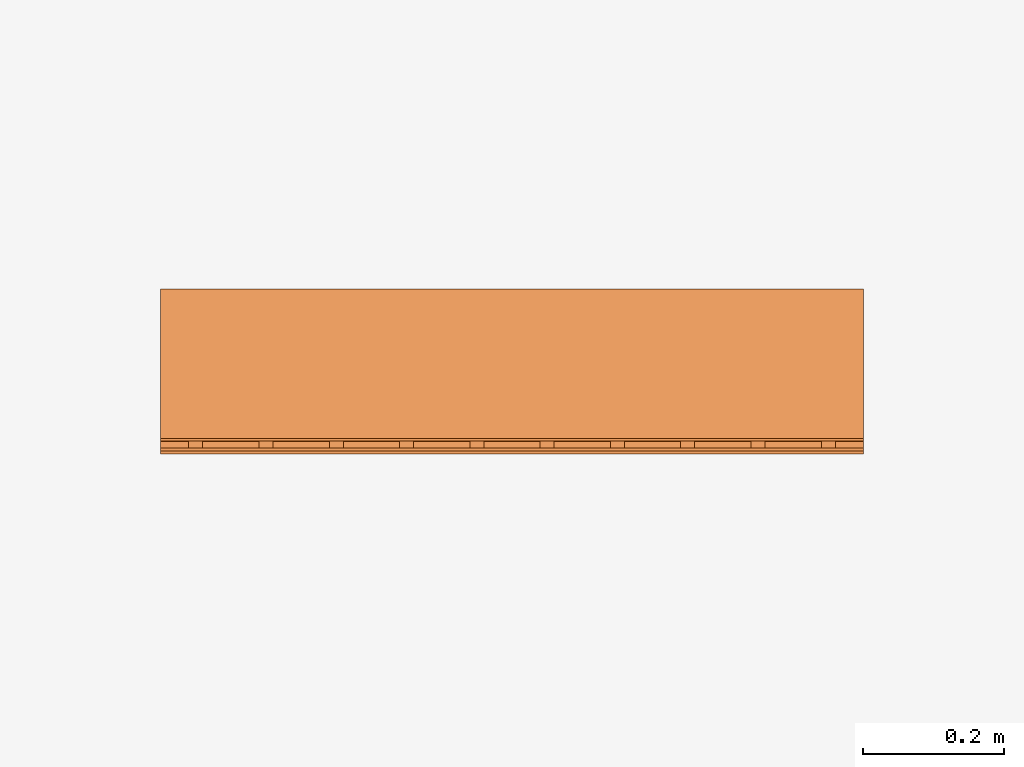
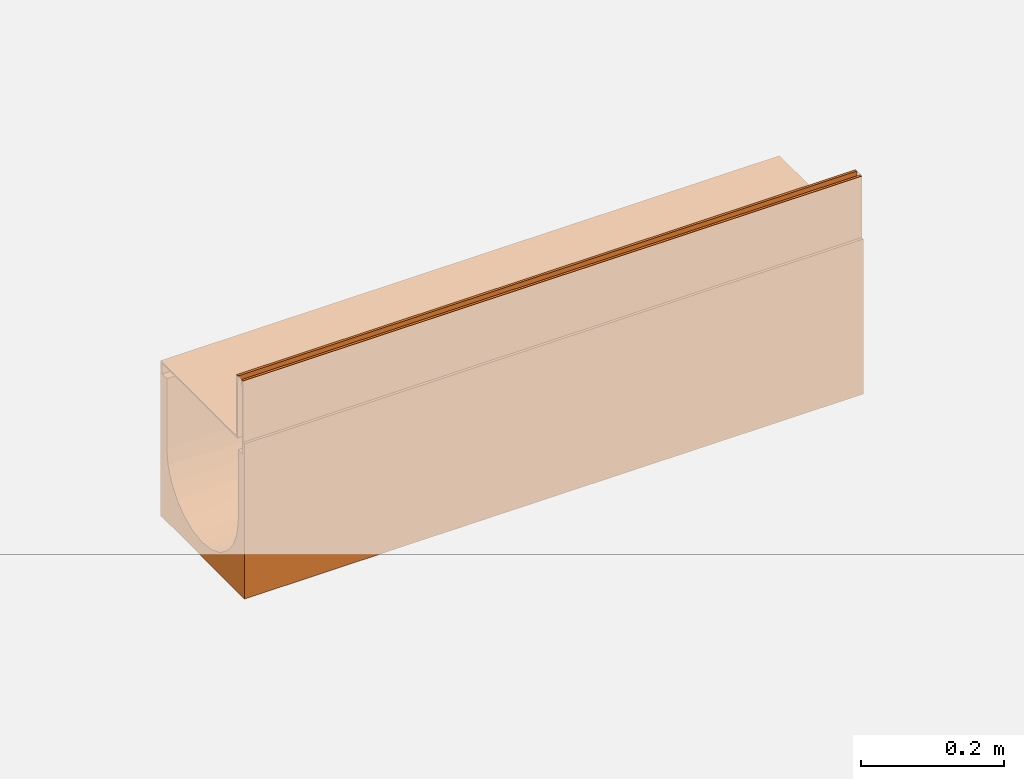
# One storey, part 2 of 2: 1 proxy.
"""IFC2X3 building model written with IfcOpenShell, lengths in millimetres."""

from ifc_helpers import new_model, entity, si_unit, converted_unit, direction, frame, origin, place, context, subcontext, project, spatial, faceted_brep, source, transform, mapped, material, material_list, element, save


model = new_model("IFC2X3")

# Units and contexts
model_context = context("Model", 3, precision=1e-06, world=origin(), true_north=direction((2.0, 6.12303176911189e-17, 1.0)))
context_of_model = context(None, 3, precision=1e-06, world=origin(), true_north=direction((2.0, 6.12303176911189e-17, 1.0)))
body_context = subcontext(model_context, "Body", "Model", "MODEL_VIEW")
ifc_project = project(units=[si_unit("LENGTHUNIT", "METRE", prefix="MILLI"), si_unit("AREAUNIT", "SQUARE_METRE", prefix="MILLI"), si_unit("VOLUMEUNIT", "CUBIC_METRE", prefix="MILLI"), converted_unit("PLANEANGLEUNIT", "DEGREE", entity("IfcRatioMeasure", 0.0174532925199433), si_unit("PLANEANGLEUNIT", "RADIAN"), dimensions=[0, 0, 0, 0, 0, 0, 0]), si_unit("TIMEUNIT", "SECOND")], contexts=[model_context, context_of_model])

# Site, building, storey
site_placement = place(None, origin())
site = spatial("IfcSite", under=ifc_project, at=site_placement, Name="Default", CompositionType="ELEMENT")
building_placement = place(site_placement, origin())
building = spatial("IfcBuilding", under=site, at=building_placement, CompositionType="ELEMENT")
storey_placement = place(building_placement, origin())
storey = spatial("IfcBuildingStorey", under=building, at=storey_placement, Name="Level 1", CompositionType="ELEMENT", Elevation=0.0)

# Proxy
ifc_material_1 = material(Name="Stainless Steel (F)")
ifc_material_2 = material(Name="Vienite® Synthetic Resin Concrete")
ifc_material_list = material_list([ifc_material_1, ifc_material_2])
shared_shape = source(origin(), body_context, "Body", "Brep", [
    faceted_brep([(113.25, 40.0, -107.0), (113.25, 42.0, -109.0), (113.25, 58.0, -109.0), (113.25, 60.0, -107.0), (113.25, 42.0, -123.499999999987), (113.25, 40.0, -125.499999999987), (113.25, 58.0, -123.499999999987), (113.25, 60.0, -125.499999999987), (-111.249999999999, 40.0, -125.499999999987), (-111.249999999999, 42.0, -123.499999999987), (-111.249999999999, 58.0, -123.499999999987), (-111.249999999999, 60.0, -125.499999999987), (-111.249999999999, 42.0, -109.0), (-111.249999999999, 40.0, -107.0), (-111.249999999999, 58.0, -109.0), (-111.249999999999, 60.0, -107.0)], [[[0, 1, 2, 3]], [[4, 1, 0, 5]], [[3, 2, 6, 7]], [[6, 4, 5, 7]], [[8, 9, 10, 11]], [[12, 9, 8, 13]], [[11, 10, 14, 15]], [[14, 12, 13, 15]], [[8, 5, 0, 13]], [[7, 5, 8, 11]], [[15, 3, 7, 11]], [[0, 3, 15, 13]], [[12, 1, 4, 9]], [[2, 1, 12, 14]], [[10, 6, 2, 14]], [[4, 6, 10, 9]]]),
    faceted_brep([(113.250000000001, 140.0, -107.0), (113.250000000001, 142.0, -109.0), (113.250000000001, 158.0, -109.0), (113.250000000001, 160.0, -107.0), (113.250000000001, 142.0, -123.499999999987), (113.250000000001, 140.0, -125.499999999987), (113.250000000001, 158.0, -123.499999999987), (113.250000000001, 160.0, -125.499999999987), (-111.249999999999, 140.0, -125.499999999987), (-111.249999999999, 142.0, -123.499999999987), (-111.249999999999, 158.0, -123.499999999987), (-111.249999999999, 160.0, -125.499999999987), (-111.249999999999, 142.0, -109.0), (-111.249999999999, 140.0, -107.0), (-111.249999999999, 158.0, -109.0), (-111.249999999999, 160.0, -107.0)], [[[0, 1, 2, 3]], [[4, 1, 0, 5]], [[3, 2, 6, 7]], [[6, 4, 5, 7]], [[8, 9, 10, 11]], [[12, 9, 8, 13]], [[11, 10, 14, 15]], [[14, 12, 13, 15]], [[8, 5, 0, 13]], [[7, 5, 8, 11]], [[15, 3, 7, 11]], [[0, 3, 15, 13]], [[1, 4, 9, 12]], [[2, 1, 12, 14]], [[10, 6, 2, 14]], [[4, 6, 10, 9]]]),
    faceted_brep([(113.250000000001, 240.0, -107.0), (113.250000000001, 242.0, -109.0), (113.250000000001, 258.0, -109.0), (113.250000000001, 260.0, -107.0), (113.250000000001, 242.0, -123.499999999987), (113.250000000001, 240.0, -125.499999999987), (113.250000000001, 258.0, -123.499999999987), (113.250000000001, 260.0, -125.499999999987), (-111.249999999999, 240.0, -125.499999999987), (-111.249999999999, 242.0, -123.499999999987), (-111.249999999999, 258.0, -123.499999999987), (-111.249999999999, 260.0, -125.499999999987), (-111.249999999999, 242.0, -109.0), (-111.249999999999, 240.0, -107.0), (-111.249999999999, 258.0, -109.0), (-111.249999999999, 260.0, -107.0)], [[[0, 1, 2, 3]], [[4, 1, 0, 5]], [[3, 2, 6, 7]], [[6, 4, 5, 7]], [[8, 9, 10, 11]], [[12, 9, 8, 13]], [[11, 10, 14, 15]], [[14, 12, 13, 15]], [[8, 5, 0, 13]], [[7, 5, 8, 11]], [[15, 3, 7, 11]], [[0, 3, 15, 13]], [[1, 4, 9, 12]], [[2, 1, 12, 14]], [[10, 6, 2, 14]], [[4, 6, 10, 9]]]),
    faceted_brep([(113.250000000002, 340.0, -107.0), (113.250000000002, 342.0, -109.0), (113.250000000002, 358.0, -109.0), (113.250000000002, 360.0, -107.0), (113.250000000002, 342.0, -123.499999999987), (113.250000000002, 340.0, -125.499999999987), (113.250000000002, 358.0, -123.499999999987), (113.250000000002, 360.0, -125.499999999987), (-111.249999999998, 340.0, -125.499999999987), (-111.249999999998, 342.0, -123.499999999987), (-111.249999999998, 358.0, -123.499999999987), (-111.249999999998, 360.0, -125.499999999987), (-111.249999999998, 342.0, -109.0), (-111.249999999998, 340.0, -107.0), (-111.249999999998, 358.0, -109.0), (-111.249999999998, 360.0, -107.0)], [[[0, 1, 2, 3]], [[4, 1, 0, 5]], [[3, 2, 6, 7]], [[6, 4, 5, 7]], [[8, 9, 10, 11]], [[12, 9, 8, 13]], [[11, 10, 14, 15]], [[14, 12, 13, 15]], [[8, 5, 0, 13]], [[7, 5, 8, 11]], [[15, 3, 7, 11]], [[0, 3, 15, 13]], [[1, 4, 9, 12]], [[2, 1, 12, 14]], [[10, 6, 2, 14]], [[4, 6, 10, 9]]]),
    faceted_brep([(113.250000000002, 440.0, -107.0), (113.250000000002, 442.0, -109.0), (113.250000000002, 458.0, -109.0), (113.250000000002, 460.0, -107.0), (113.250000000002, 442.0, -123.499999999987), (113.250000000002, 440.0, -125.499999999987), (113.250000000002, 458.0, -123.499999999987), (113.250000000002, 460.0, -125.499999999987), (-111.249999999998, 440.0, -125.499999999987), (-111.249999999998, 442.0, -123.499999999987), (-111.249999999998, 458.0, -123.499999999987), (-111.249999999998, 460.0, -125.499999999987), (-111.249999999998, 442.0, -109.0), (-111.249999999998, 440.0, -107.0), (-111.249999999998, 458.0, -109.0), (-111.249999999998, 460.0, -107.0)], [[[0, 1, 2, 3]], [[4, 1, 0, 5]], [[3, 2, 6, 7]], [[6, 4, 5, 7]], [[8, 9, 10, 11]], [[12, 9, 8, 13]], [[11, 10, 14, 15]], [[14, 12, 13, 15]], [[8, 5, 0, 13]], [[7, 5, 8, 11]], [[15, 3, 7, 11]], [[0, 3, 15, 13]], [[1, 4, 9, 12]], [[2, 1, 12, 14]], [[10, 6, 2, 14]], [[4, 6, 10, 9]]]),
    faceted_brep([(113.250000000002, 540.0, -107.0), (113.250000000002, 542.0, -109.0), (113.250000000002, 558.0, -109.0), (113.250000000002, 560.0, -107.0), (113.250000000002, 542.0, -123.499999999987), (113.250000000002, 540.0, -125.499999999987), (113.250000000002, 558.0, -123.499999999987), (113.250000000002, 560.0, -125.499999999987), (-111.249999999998, 540.0, -125.499999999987), (-111.249999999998, 542.0, -123.499999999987), (-111.249999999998, 558.0, -123.499999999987), (-111.249999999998, 560.0, -125.499999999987), (-111.249999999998, 542.0, -109.0), (-111.249999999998, 540.0, -107.0), (-111.249999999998, 558.0, -109.0), (-111.249999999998, 560.0, -107.0)], [[[0, 1, 2, 3]], [[4, 1, 0, 5]], [[3, 2, 6, 7]], [[6, 4, 5, 7]], [[8, 9, 10, 11]], [[12, 9, 8, 13]], [[11, 10, 14, 15]], [[14, 12, 13, 15]], [[8, 5, 0, 13]], [[7, 5, 8, 11]], [[15, 3, 7, 11]], [[0, 3, 15, 13]], [[1, 4, 9, 12]], [[14, 2, 1, 12]], [[10, 6, 2, 14]], [[9, 4, 6, 10]]]),
    faceted_brep([(113.250000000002, 640.0, -107.0), (113.250000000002, 642.0, -109.0), (113.250000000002, 658.0, -109.0), (113.250000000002, 660.0, -107.0), (113.250000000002, 642.0, -123.499999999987), (113.250000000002, 640.0, -125.499999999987), (113.250000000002, 658.0, -123.499999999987), (113.250000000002, 660.0, -125.499999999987), (-111.249999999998, 640.0, -125.499999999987), (-111.249999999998, 642.0, -123.499999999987), (-111.249999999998, 658.0, -123.499999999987), (-111.249999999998, 660.0, -125.499999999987), (-111.249999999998, 642.0, -109.0), (-111.249999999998, 640.0, -107.0), (-111.249999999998, 658.0, -109.0), (-111.249999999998, 660.0, -107.0)], [[[0, 1, 2, 3]], [[4, 1, 0, 5]], [[3, 2, 6, 7]], [[6, 4, 5, 7]], [[8, 9, 10, 11]], [[12, 9, 8, 13]], [[11, 10, 14, 15]], [[14, 12, 13, 15]], [[8, 5, 0, 13]], [[7, 5, 8, 11]], [[15, 3, 7, 11]], [[13, 0, 3, 15]], [[1, 4, 9, 12]], [[2, 1, 12, 14]], [[10, 6, 2, 14]], [[4, 6, 10, 9]]]),
    faceted_brep([(113.250000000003, 740.0, -107.0), (113.250000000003, 742.0, -109.0), (113.250000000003, 758.0, -109.0), (113.250000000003, 760.0, -107.0), (113.250000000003, 742.0, -123.499999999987), (113.250000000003, 740.0, -125.499999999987), (113.250000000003, 758.0, -123.499999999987), (113.250000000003, 760.0, -125.499999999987), (-111.249999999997, 740.0, -125.499999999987), (-111.249999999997, 742.0, -123.499999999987), (-111.249999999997, 758.0, -123.499999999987), (-111.249999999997, 760.0, -125.499999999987), (-111.249999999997, 742.0, -109.0), (-111.249999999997, 740.0, -107.0), (-111.249999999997, 758.0, -109.0), (-111.249999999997, 760.0, -107.0)], [[[0, 1, 2, 3]], [[4, 1, 0, 5]], [[3, 2, 6, 7]], [[6, 4, 5, 7]], [[8, 9, 10, 11]], [[12, 9, 8, 13]], [[11, 10, 14, 15]], [[14, 12, 13, 15]], [[8, 5, 0, 13]], [[7, 5, 8, 11]], [[15, 3, 7, 11]], [[13, 0, 3, 15]], [[1, 4, 9, 12]], [[2, 1, 12, 14]], [[10, 6, 2, 14]], [[4, 6, 10, 9]]]),
    faceted_brep([(113.250000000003, 840.0, -107.0), (113.250000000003, 842.0, -109.0), (113.250000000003, 858.0, -109.0), (113.250000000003, 860.0, -107.0), (113.250000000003, 842.0, -123.499999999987), (113.250000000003, 840.0, -125.499999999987), (113.250000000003, 858.0, -123.499999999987), (113.250000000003, 860.0, -125.499999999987), (-111.249999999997, 840.0, -125.499999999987), (-111.249999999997, 842.0, -123.499999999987), (-111.249999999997, 858.0, -123.499999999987), (-111.249999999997, 860.0, -125.499999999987), (-111.249999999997, 842.0, -109.0), (-111.249999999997, 840.0, -107.0), (-111.249999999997, 858.0, -109.0), (-111.249999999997, 860.0, -107.0)], [[[0, 1, 2, 3]], [[4, 1, 0, 5]], [[3, 2, 6, 7]], [[6, 4, 5, 7]], [[8, 9, 10, 11]], [[12, 9, 8, 13]], [[11, 10, 14, 15]], [[14, 12, 13, 15]], [[8, 5, 0, 13]], [[7, 5, 8, 11]], [[15, 3, 7, 11]], [[13, 0, 3, 15]], [[1, 4, 9, 12]], [[2, 1, 12, 14]], [[10, 6, 2, 14]], [[4, 6, 10, 9]]]),
    faceted_brep([(113.250000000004, 960.0, -107.0), (113.250000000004, 958.0, -109.0), (113.250000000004, 958.0, -123.499999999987), (113.250000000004, 960.0, -125.499999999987), (113.250000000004, 942.0, -109.0), (113.250000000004, 940.0, -107.0), (113.250000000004, 942.0, -123.499999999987), (113.250000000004, 940.0, -125.499999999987), (-111.249999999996, 940.0, -107.0), (-111.249999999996, 942.0, -109.0), (-111.249999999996, 942.0, -123.499999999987), (-111.249999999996, 940.0, -125.499999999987), (-111.249999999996, 958.0, -109.0), (-111.249999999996, 960.0, -107.0), (-111.249999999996, 958.0, -123.499999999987), (-111.249999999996, 960.0, -125.499999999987)], [[[0, 1, 2, 3]], [[4, 1, 0, 5]], [[3, 2, 6, 7]], [[6, 4, 5, 7]], [[8, 9, 10, 11]], [[12, 9, 8, 13]], [[11, 10, 14, 15]], [[14, 12, 13, 15]], [[13, 0, 3, 15]], [[15, 3, 7, 11]], [[11, 7, 5, 8]], [[5, 0, 13, 8]], [[2, 1, 12, 14]], [[1, 4, 9, 12]], [[9, 4, 6, 10]], [[6, 2, 14, 10]]]),
    faceted_brep([(-97.2500000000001, 0.0, -10.0), (-97.2500000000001, 0.0, -107.0), (-95.25, 0.0, -105.0), (-95.25, 0.0, 0.0), (-99.2500000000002, 0.0, 0.0), (-99.2500000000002, 0.0, -10.0), (113.25, 0.0, -107.0), (113.25, 0.0, -105.0), (-95.25, 1000.0, -105.0), (113.25, 1000.0, -105.0), (113.25, 1000.0, -107.0), (-97.2500000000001, 1000.0, -107.0), (-97.2500000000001, 1000.0, -10.0), (-95.25, 1000.0, 0.0), (-99.2500000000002, 1000.0, -10.0), (-99.2500000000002, 1000.0, 0.0)], [[[0, 1, 2, 3]], [[4, 5, 0, 3]], [[6, 7, 2, 1]], [[8, 9, 10, 11]], [[12, 13, 8, 11]], [[12, 14, 15, 13]], [[0, 5, 14, 12]], [[11, 1, 0, 12]], [[10, 6, 1, 11]], [[2, 7, 9, 8]], [[3, 2, 8, 13]], [[15, 4, 3, 13]], [[5, 4, 15, 14]], [[9, 7, 6, 10]]]),
    faceted_brep([(-109.25, 1000.0, 0.0), (-109.25, 1000.0, -10.0), (-111.25, 1000.0, -10.0), (-113.25, 1000.0, 0.0), (-113.25, 1000.0, -125.499999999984), (-111.25, 1000.0, -125.499999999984), (-111.25, 0.0, -10.0), (-113.25, 0.0, 0.0), (-113.25, 0.0, -125.499999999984), (-111.25, 0.0, -125.499999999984), (-109.25, 0.0, 0.0), (-109.25, 0.0, -10.0)], [[[0, 1, 2, 3]], [[4, 3, 2, 5]], [[6, 7, 8, 9]], [[10, 7, 6, 11]], [[9, 8, 4, 5]], [[6, 9, 5, 2]], [[11, 6, 2, 1]], [[10, 11, 1, 0]], [[3, 7, 10, 0]], [[4, 8, 7, 3]]]),
    faceted_brep([(113.25, 1000.0, -125.50000000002), (113.25, 1000.0, -105.0), (117.5, 1000.0, -105.0), (117.5, 1000.0, -370.0), (100.0, 1000.0, -245.0), (100.0, 1000.0, -125.5), (-117.5, 1000.0, -105.0), (-113.25, 1000.0, -105.0), (-113.25, 1000.0, -125.500000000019), (-117.5, 1000.0, -370.0), (-100.0, 1000.0, -125.500000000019), (-100.0, 1000.0, -245.0), (96.5925826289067, 1000.0, -270.881904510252), (70.7106781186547, 1000.0, -315.710678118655), (86.6025403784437, 1000.0, -295.0), (50.0, 1000.0, -331.602540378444), (0.0, 1000.0, -345.0), (25.8819045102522, 1000.0, -341.592582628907), (-86.6025403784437, 1000.0, -295.0), (-70.7106781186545, 1000.0, -315.710678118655), (-96.5925826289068, 1000.0, -270.881904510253), (-50.0, 1000.0, -331.602540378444), (-25.8819045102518, 1000.0, -341.592582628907), (117.5, 0.0, -370.0), (25.8819045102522, 0.0, -341.592582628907), (0.0, 0.0, -345.0), (50.0, 0.0, -331.602540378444), (70.7106781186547, 0.0, -315.710678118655), (86.6025403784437, 0.0, -295.0), (96.5925826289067, 0.0, -270.881904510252), (-25.8819045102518, 0.0, -341.592582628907), (-117.5, 0.0, -370.0), (-50.0, 0.0, -331.602540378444), (-70.7106781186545, 0.0, -315.710678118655), (-86.6025403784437, 0.0, -295.0), (-96.5925826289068, 0.0, -270.881904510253), (100.0, 0.0, -245.0), (113.25, 0.0, -125.50000000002), (100.0, 0.0, -125.5), (117.5, 0.0, -105.0), (113.25, 0.0, -105.0), (-100.0, 0.0, -245.0), (-100.0, 0.0, -125.500000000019), (-113.25, 0.0, -125.500000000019), (-113.25, 0.0, -105.0), (-117.5, 0.0, -105.0), (-20.7055236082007, 47.7259338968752, -370.0), (0.0, 45.0, -370.0), (-40.0, 55.7179676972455, -370.0), (-77.2740661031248, 104.294476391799, -370.0), (-69.2820323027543, 85.0, -370.0), (-56.5685424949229, 68.4314575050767, -370.0), (-80.0, 125.0, -370.0), (20.7055236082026, 47.7259338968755, -370.0), (40.0, 55.7179676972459, -370.0), (56.5685424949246, 68.4314575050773, -370.0), (69.2820323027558, 85.0, -370.0), (77.2740661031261, 104.294476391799, -370.0), (80.0, 125.0, -370.0), (77.2740661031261, 145.705523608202, -370.0), (-77.2740661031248, 145.705523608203, -370.0), (-69.2820323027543, 165.0, -370.0), (-56.5685424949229, 181.568542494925, -370.0), (-40.0, 194.282032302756, -370.0), (-20.7055236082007, 202.274066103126, -370.0), (0.0, 205.0, -370.0), (69.2820323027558, 165.0, -370.0), (56.5685424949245, 181.568542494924, -370.0), (20.7055236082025, 202.274066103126, -370.0), (40.0, 194.282032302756, -370.0), (100.0, 500.0, -245.0), (-100.0, 500.0, -245.0), (79.3353338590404, 467.006348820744, -305.876143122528), (38.2683432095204, 532.993650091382, -337.387953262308), (13.0526192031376, 500.0, -344.144486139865), (92.3879530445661, 499.999995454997, -283.268343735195), (98.0785279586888, 394.670893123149, -264.509032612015), (60.8761427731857, 500.0, -324.3353341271), (-92.3879532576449, 500.0, -283.268343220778), (-98.0785280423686, 605.329099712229, -264.50903219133), (-60.8761429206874, 467.006350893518, -324.335334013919), (-38.2683432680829, 500.0, -337.38795323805), (-13.0526192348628, 532.993648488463, -344.144486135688), (-79.3353340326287, 532.993648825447, -305.876142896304), (-56.5685424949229, 181.568542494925, -360.0), (-40.0, 194.282032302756, -360.0), (-20.7055236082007, 202.274066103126, -360.0), (40.0, 194.282032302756, -360.0), (-80.0, 125.0, -360.0), (-77.2740661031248, 145.705523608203, -360.0), (-69.2820323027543, 165.0, -360.0), (77.2740661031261, 145.705523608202, -360.0), (0.0, 205.0, -360.0), (20.7055236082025, 202.274066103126, -360.0), (56.5685424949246, 181.568542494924, -360.0), (69.2820323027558, 165.0, -360.0), (-77.2740661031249, 104.294476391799, -360.0), (80.0, 125.0, -360.0), (-56.5685424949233, 68.4314575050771, -360.0), (-69.2820323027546, 85.0, -360.0), (-40.0, 55.7179676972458, -360.0), (0.0, 45.0, -360.0), (-20.7055236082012, 47.7259338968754, -360.0), (40.0, 55.7179676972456, -360.0), (77.2740661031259, 104.294476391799, -360.0), (69.2820323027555, 85.0, -360.0), (56.5685424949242, 68.4314575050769, -360.0), (20.7055236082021, 47.7259338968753, -360.0)], [[[0, 1, 2, 3]], [[4, 5, 0, 3]], [[6, 7, 8, 9]], [[8, 10, 11, 9]], [[4, 3, 12]], [[13, 14, 3]], [[15, 13, 3]], [[16, 17, 3, 9]], [[3, 17, 15]], [[14, 12, 3]], [[18, 19, 9]], [[20, 18, 9]], [[21, 22, 9]], [[9, 22, 16]], [[21, 9, 19]], [[20, 9, 11]], [[23, 24, 25]], [[24, 23, 26]], [[27, 26, 23]], [[28, 27, 23]], [[23, 29, 28]], [[25, 30, 31, 23]], [[31, 30, 32]], [[33, 34, 31]], [[32, 33, 31]], [[31, 34, 35]], [[36, 29, 23]], [[37, 38, 36, 23]], [[39, 40, 37, 23]], [[41, 42, 43, 31]], [[35, 41, 31]], [[43, 44, 45, 31]], [[7, 44, 43, 8]], [[45, 44, 7, 6]], [[31, 45, 6, 9]], [[31, 46, 47, 23]], [[46, 31, 48]], [[49, 50, 31]], [[51, 48, 31]], [[50, 51, 31]], [[31, 52, 49]], [[23, 53, 54]], [[53, 23, 47]], [[23, 54, 55]], [[55, 56, 23]], [[57, 58, 23]], [[56, 57, 23]], [[23, 58, 59, 3]], [[60, 52, 31, 9]], [[61, 60, 9]], [[62, 9, 63]], [[9, 62, 61]], [[64, 63, 9]], [[65, 64, 9, 3]], [[66, 67, 3]], [[59, 66, 3]], [[68, 65, 3]], [[69, 3, 67]], [[3, 69, 68]], [[2, 39, 23, 3]], [[1, 40, 39, 2]], [[37, 40, 1, 0]], [[5, 38, 37, 0]], [[4, 70, 38, 5]], [[42, 41, 71, 11]], [[11, 10, 42]], [[8, 43, 42, 10]], [[72, 27, 28]], [[73, 74, 24]], [[28, 29, 75]], [[75, 29, 76]], [[27, 77, 26]], [[78, 79, 35]], [[70, 76, 36]], [[75, 72, 28]], [[71, 79, 11]], [[73, 24, 26]], [[14, 75, 12]], [[70, 4, 12]], [[76, 29, 36]], [[74, 25, 24]], [[80, 33, 32]], [[72, 75, 14]], [[20, 11, 79]], [[14, 13, 72]], [[15, 73, 77]], [[21, 81, 22]], [[17, 73, 15]], [[82, 81, 30]], [[17, 16, 74]], [[15, 77, 13]], [[32, 30, 81]], [[83, 80, 19]], [[35, 79, 71]], [[80, 32, 81]], [[35, 34, 78]], [[83, 34, 33]], [[82, 22, 81]], [[78, 34, 83]], [[19, 80, 21]], [[41, 35, 71]], [[30, 25, 82]], [[22, 82, 16]], [[72, 77, 27]], [[82, 74, 16]], [[12, 76, 70]], [[80, 81, 21]], [[73, 17, 74]], [[18, 78, 83]], [[83, 19, 18]], [[77, 73, 26]], [[20, 79, 78]], [[77, 72, 13]], [[74, 82, 25]], [[33, 80, 83]], [[75, 76, 12]], [[20, 78, 18]], [[84, 85, 86, 87]], [[84, 88, 89, 90]], [[88, 84, 87, 91]], [[86, 92, 93, 87]], [[87, 94, 95, 91]], [[96, 88, 91, 97]], [[98, 99, 96, 100]], [[101, 102, 100, 103]], [[97, 100, 96]], [[104, 105, 106, 103]], [[97, 104, 103, 100]], [[103, 107, 101]], [[91, 59, 58, 97]], [[95, 66, 59, 91]], [[87, 69, 67, 94]], [[94, 67, 66, 95]], [[93, 68, 69, 87]], [[68, 93, 92, 65]], [[86, 64, 65, 92]], [[85, 63, 64, 86]], [[90, 61, 62, 84]], [[84, 62, 63, 85]], [[89, 60, 61, 90]], [[60, 89, 88, 52]], [[96, 49, 52, 88]], [[99, 50, 49, 96]], [[100, 48, 51, 98]], [[98, 51, 50, 99]], [[102, 46, 48, 100]], [[46, 102, 101, 47]], [[107, 53, 47, 101]], [[103, 54, 53, 107]], [[105, 56, 55, 106]], [[106, 55, 54, 103]], [[104, 57, 56, 105]], [[104, 97, 58, 57]], [[38, 70, 36]]]),
])
proxy_placement = place(storey_placement, frame((120.697437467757, 206.508415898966, 0.0), z_axis=(0.0, 0.0, 1.0), x_axis=(0.0, 1.0, 0.0)))
element("IfcBuildingElementProxy", 1, at=proxy_placement, inside=storey, material=ifc_material_list, Name="Civil-Drainage-Channel-ACO-MultiDrain-M200DS-Brickslot-Channel-System:24210 - No 0.0 Constant Depth Channel - 1000mm LG - Invert Depth 240mm:24210 - No 0.0 Constant Depth Channel - 1000mm LG - Invert Depth 240mm", ObjectType="24210 - No 0.0 Constant Depth Channel - 1000mm LG - Invert Depth 240mm", CompositionType="ELEMENT", context=body_context, shape_type="MappedRepresentation", body=[
    mapped(shared_shape, transform((0.0, 0.0, 0.0), scale=1.0)),
])

save(model, "model.ifc")
